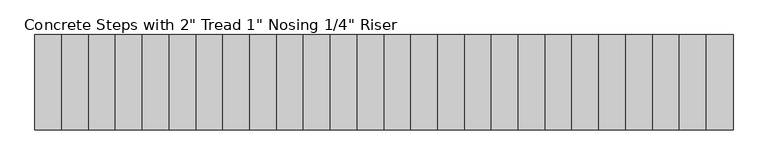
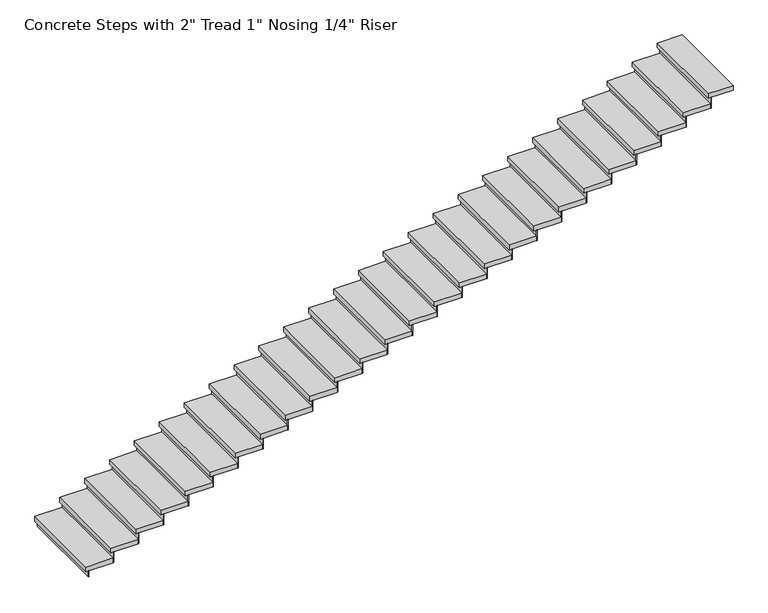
"""IFC4 building model written with IfcOpenShell, lengths in millimetres: stair flight geometry."""

from ifc_helpers import new_model, si_unit, frame, origin, origin_with_axes, place, context, project, spatial, polyline, outline, extrude, source, transform, mapped, element, save


def stair_flight_88b9d9bb(model_context):
    return source(origin(), model_context, "Body", "SweptSolid", [
        extrude(outline(polyline([(-13769.987319, 32762.1216942), (-13776.337319, 32762.1216942), (-13776.337319, 33676.5216942), (-13769.987319, 33676.5216942), (-13769.987319, 32762.1216942)])), origin_with_axes(), (0.0, 0.0, 1.0), 66.4307692),
        extrude(outline(polyline([(-13518.527319, 33676.5216942), (-13518.527319, 32762.1216942), (-13801.737319, 32762.1216942), (-13801.737319, 33676.5216942), (-13518.527319, 33676.5216942)])), frame((0.0, 0.0, 66.4307692), z_axis=(0.0, 0.0, 1.0), x_axis=(1.0, 0.0, 0.0)), (0.0, 0.0, 1.0), 50.8),
        extrude(outline(polyline([(-13512.177319, 32762.1216942), (-13518.527319, 32762.1216942), (-13518.527319, 33676.5216942), (-13512.177319, 33676.5216942), (-13512.177319, 32762.1216942)])), frame((0.0, 0.0, 66.4307692), z_axis=(0.0, 0.0, 1.0), x_axis=(1.0, 0.0, 0.0)), (0.0, 0.0, 1.0), 117.2307692),
        extrude(outline(polyline([(-13260.717319, 33676.5216942), (-13260.717319, 32762.1216942), (-13543.927319, 32762.1216942), (-13543.927319, 33676.5216942), (-13260.717319, 33676.5216942)])), frame((0.0, 0.0, 183.6615385), z_axis=(0.0, 0.0, 1.0), x_axis=(1.0, 0.0, 0.0)), (0.0, 0.0, 1.0), 50.8),
        extrude(outline(polyline([(-13254.367319, 32762.1216942), (-13260.717319, 32762.1216942), (-13260.717319, 33676.5216942), (-13254.367319, 33676.5216942), (-13254.367319, 32762.1216942)])), frame((0.0, 0.0, 183.6615385), z_axis=(0.0, 0.0, 1.0), x_axis=(1.0, 0.0, 0.0)), (0.0, 0.0, 1.0), 117.2307692),
        extrude(outline(polyline([(-13002.907319, 33676.5216942), (-13002.907319, 32762.1216942), (-13286.117319, 32762.1216942), (-13286.117319, 33676.5216942), (-13002.907319, 33676.5216942)])), frame((0.0, 0.0, 300.8923077), z_axis=(0.0, 0.0, 1.0), x_axis=(1.0, 0.0, 0.0)), (0.0, 0.0, 1.0), 50.8),
        extrude(outline(polyline([(-12996.557319, 32762.1216942), (-13002.907319, 32762.1216942), (-13002.907319, 33676.5216942), (-12996.557319, 33676.5216942), (-12996.557319, 32762.1216942)])), frame((0.0, 0.0, 300.8923077), z_axis=(0.0, 0.0, 1.0), x_axis=(1.0, 0.0, 0.0)), (0.0, 0.0, 1.0), 117.2307692),
        extrude(outline(polyline([(-12745.097319, 33676.5216942), (-12745.097319, 32762.1216942), (-13028.307319, 32762.1216942), (-13028.307319, 33676.5216942), (-12745.097319, 33676.5216942)])), frame((0.0, 0.0, 418.1230769), z_axis=(0.0, 0.0, 1.0), x_axis=(1.0, 0.0, 0.0)), (0.0, 0.0, 1.0), 50.8),
        extrude(outline(polyline([(-12738.747319, 32762.1216942), (-12745.097319, 32762.1216942), (-12745.097319, 33676.5216942), (-12738.747319, 33676.5216942), (-12738.747319, 32762.1216942)])), frame((0.0, 0.0, 418.1230769), z_axis=(0.0, 0.0, 1.0), x_axis=(1.0, 0.0, 0.0)), (0.0, 0.0, 1.0), 117.2307692),
        extrude(outline(polyline([(-12487.287319, 33676.5216942), (-12487.287319, 32762.1216942), (-12770.497319, 32762.1216942), (-12770.497319, 33676.5216942), (-12487.287319, 33676.5216942)])), frame((0.0, 0.0, 535.3538462), z_axis=(0.0, 0.0, 1.0), x_axis=(1.0, 0.0, 0.0)), (0.0, 0.0, 1.0), 50.8),
        extrude(outline(polyline([(-12480.937319, 32762.1216942), (-12487.287319, 32762.1216942), (-12487.287319, 33676.5216942), (-12480.937319, 33676.5216942), (-12480.937319, 32762.1216942)])), frame((0.0, 0.0, 535.3538462), z_axis=(0.0, 0.0, 1.0), x_axis=(1.0, 0.0, 0.0)), (0.0, 0.0, 1.0), 117.2307692),
        extrude(outline(polyline([(-12229.477319, 33676.5216942), (-12229.477319, 32762.1216942), (-12512.687319, 32762.1216942), (-12512.687319, 33676.5216942), (-12229.477319, 33676.5216942)])), frame((0.0, 0.0, 652.5846154), z_axis=(0.0, 0.0, 1.0), x_axis=(1.0, 0.0, 0.0)), (0.0, 0.0, 1.0), 50.8),
        extrude(outline(polyline([(-12223.127319, 32762.1216942), (-12229.477319, 32762.1216942), (-12229.477319, 33676.5216942), (-12223.127319, 33676.5216942), (-12223.127319, 32762.1216942)])), frame((0.0, 0.0, 652.5846154), z_axis=(0.0, 0.0, 1.0), x_axis=(1.0, 0.0, 0.0)), (0.0, 0.0, 1.0), 117.2307692),
        extrude(outline(polyline([(-11971.667319, 33676.5216942), (-11971.667319, 32762.1216942), (-12254.877319, 32762.1216942), (-12254.877319, 33676.5216942), (-11971.667319, 33676.5216942)])), frame((0.0, 0.0, 769.8153846), z_axis=(0.0, 0.0, 1.0), x_axis=(1.0, 0.0, 0.0)), (0.0, 0.0, 1.0), 50.8),
        extrude(outline(polyline([(-11965.317319, 32762.1216942), (-11971.667319, 32762.1216942), (-11971.667319, 33676.5216942), (-11965.317319, 33676.5216942), (-11965.317319, 32762.1216942)])), frame((0.0, 0.0, 769.8153846), z_axis=(0.0, 0.0, 1.0), x_axis=(1.0, 0.0, 0.0)), (0.0, 0.0, 1.0), 117.2307692),
        extrude(outline(polyline([(-11713.857319, 33676.5216942), (-11713.857319, 32762.1216942), (-11997.067319, 32762.1216942), (-11997.067319, 33676.5216942), (-11713.857319, 33676.5216942)])), frame((0.0, 0.0, 887.0461538), z_axis=(0.0, 0.0, 1.0), x_axis=(1.0, 0.0, 0.0)), (0.0, 0.0, 1.0), 50.8),
        extrude(outline(polyline([(-11707.507319, 32762.1216942), (-11713.857319, 32762.1216942), (-11713.857319, 33676.5216942), (-11707.507319, 33676.5216942), (-11707.507319, 32762.1216942)])), frame((0.0, 0.0, 887.0461538), z_axis=(0.0, 0.0, 1.0), x_axis=(1.0, 0.0, 0.0)), (0.0, 0.0, 1.0), 117.2307692),
        extrude(outline(polyline([(-11456.047319, 33676.5216942), (-11456.047319, 32762.1216942), (-11739.257319, 32762.1216942), (-11739.257319, 33676.5216942), (-11456.047319, 33676.5216942)])), frame((0.0, 0.0, 1004.2769231), z_axis=(0.0, 0.0, 1.0), x_axis=(1.0, 0.0, 0.0)), (0.0, 0.0, 1.0), 50.8),
        extrude(outline(polyline([(-11449.697319, 32762.1216942), (-11456.047319, 32762.1216942), (-11456.047319, 33676.5216942), (-11449.697319, 33676.5216942), (-11449.697319, 32762.1216942)])), frame((0.0, 0.0, 1004.2769231), z_axis=(0.0, 0.0, 1.0), x_axis=(1.0, 0.0, 0.0)), (0.0, 0.0, 1.0), 117.2307692),
        extrude(outline(polyline([(-11198.237319, 33676.5216942), (-11198.237319, 32762.1216942), (-11481.447319, 32762.1216942), (-11481.447319, 33676.5216942), (-11198.237319, 33676.5216942)])), frame((0.0, 0.0, 1121.5076923), z_axis=(0.0, 0.0, 1.0), x_axis=(1.0, 0.0, 0.0)), (0.0, 0.0, 1.0), 50.8),
        extrude(outline(polyline([(-11191.887319, 32762.1216942), (-11198.237319, 32762.1216942), (-11198.237319, 33676.5216942), (-11191.887319, 33676.5216942), (-11191.887319, 32762.1216942)])), frame((0.0, 0.0, 1121.5076923), z_axis=(0.0, 0.0, 1.0), x_axis=(1.0, 0.0, 0.0)), (0.0, 0.0, 1.0), 117.2307692),
        extrude(outline(polyline([(-10940.427319, 33676.5216942), (-10940.427319, 32762.1216942), (-11223.637319, 32762.1216942), (-11223.637319, 33676.5216942), (-10940.427319, 33676.5216942)])), frame((0.0, 0.0, 1238.7384615), z_axis=(0.0, 0.0, 1.0), x_axis=(1.0, 0.0, 0.0)), (0.0, 0.0, 1.0), 50.8),
        extrude(outline(polyline([(-10934.077319, 32762.1216942), (-10940.427319, 32762.1216942), (-10940.427319, 33676.5216942), (-10934.077319, 33676.5216942), (-10934.077319, 32762.1216942)])), frame((0.0, 0.0, 1238.7384615), z_axis=(0.0, 0.0, 1.0), x_axis=(1.0, 0.0, 0.0)), (0.0, 0.0, 1.0), 117.2307692),
        extrude(outline(polyline([(-10682.617319, 33676.5216942), (-10682.617319, 32762.1216942), (-10965.827319, 32762.1216942), (-10965.827319, 33676.5216942), (-10682.617319, 33676.5216942)])), frame((0.0, 0.0, 1355.9692308), z_axis=(0.0, 0.0, 1.0), x_axis=(1.0, 0.0, 0.0)), (0.0, 0.0, 1.0), 50.8),
        extrude(outline(polyline([(-10676.267319, 32762.1216942), (-10682.617319, 32762.1216942), (-10682.617319, 33676.5216942), (-10676.267319, 33676.5216942), (-10676.267319, 32762.1216942)])), frame((0.0, 0.0, 1355.9692308), z_axis=(0.0, 0.0, 1.0), x_axis=(1.0, 0.0, 0.0)), (0.0, 0.0, 1.0), 117.2307692),
        extrude(outline(polyline([(-10424.807319, 33676.5216942), (-10424.807319, 32762.1216942), (-10708.017319, 32762.1216942), (-10708.017319, 33676.5216942), (-10424.807319, 33676.5216942)])), frame((0.0, 0.0, 1473.2), z_axis=(0.0, 0.0, 1.0), x_axis=(1.0, 0.0, 0.0)), (0.0, 0.0, 1.0), 50.8),
        extrude(outline(polyline([(-10418.457319, 32762.1216942), (-10424.807319, 32762.1216942), (-10424.807319, 33676.5216942), (-10418.457319, 33676.5216942), (-10418.457319, 32762.1216942)])), frame((0.0, 0.0, 1473.2), z_axis=(0.0, 0.0, 1.0), x_axis=(1.0, 0.0, 0.0)), (0.0, 0.0, 1.0), 117.2307692),
        extrude(outline(polyline([(-10166.997319, 33676.5216942), (-10166.997319, 32762.1216942), (-10450.207319, 32762.1216942), (-10450.207319, 33676.5216942), (-10166.997319, 33676.5216942)])), frame((0.0, 0.0, 1590.4307692), z_axis=(0.0, 0.0, 1.0), x_axis=(1.0, 0.0, 0.0)), (0.0, 0.0, 1.0), 50.8),
        extrude(outline(polyline([(-10160.647319, 32762.1216942), (-10166.997319, 32762.1216942), (-10166.997319, 33676.5216942), (-10160.647319, 33676.5216942), (-10160.647319, 32762.1216942)])), frame((0.0, 0.0, 1590.4307692), z_axis=(0.0, 0.0, 1.0), x_axis=(1.0, 0.0, 0.0)), (0.0, 0.0, 1.0), 117.2307692),
        extrude(outline(polyline([(-9909.187319, 33676.5216942), (-9909.187319, 32762.1216942), (-10192.397319, 32762.1216942), (-10192.397319, 33676.5216942), (-9909.187319, 33676.5216942)])), frame((0.0, 0.0, 1707.6615385), z_axis=(0.0, 0.0, 1.0), x_axis=(1.0, 0.0, 0.0)), (0.0, 0.0, 1.0), 50.8),
        extrude(outline(polyline([(-9902.837319, 32762.1216942), (-9909.187319, 32762.1216942), (-9909.187319, 33676.5216942), (-9902.837319, 33676.5216942), (-9902.837319, 32762.1216942)])), frame((0.0, 0.0, 1707.6615385), z_axis=(0.0, 0.0, 1.0), x_axis=(1.0, 0.0, 0.0)), (0.0, 0.0, 1.0), 117.2307692),
        extrude(outline(polyline([(-9651.377319, 33676.5216942), (-9651.377319, 32762.1216942), (-9934.587319, 32762.1216942), (-9934.587319, 33676.5216942), (-9651.377319, 33676.5216942)])), frame((0.0, 0.0, 1824.8923077), z_axis=(0.0, 0.0, 1.0), x_axis=(1.0, 0.0, 0.0)), (0.0, 0.0, 1.0), 50.8),
        extrude(outline(polyline([(-9645.027319, 32762.1216942), (-9651.377319, 32762.1216942), (-9651.377319, 33676.5216942), (-9645.027319, 33676.5216942), (-9645.027319, 32762.1216942)])), frame((0.0, 0.0, 1824.8923077), z_axis=(0.0, 0.0, 1.0), x_axis=(1.0, 0.0, 0.0)), (0.0, 0.0, 1.0), 117.2307692),
        extrude(outline(polyline([(-9393.567319, 33676.5216942), (-9393.567319, 32762.1216942), (-9676.777319, 32762.1216942), (-9676.777319, 33676.5216942), (-9393.567319, 33676.5216942)])), frame((0.0, 0.0, 1942.1230769), z_axis=(0.0, 0.0, 1.0), x_axis=(1.0, 0.0, 0.0)), (0.0, 0.0, 1.0), 50.8),
        extrude(outline(polyline([(-9387.217319, 32762.1216942), (-9393.567319, 32762.1216942), (-9393.567319, 33676.5216942), (-9387.217319, 33676.5216942), (-9387.217319, 32762.1216942)])), frame((0.0, 0.0, 1942.1230769), z_axis=(0.0, 0.0, 1.0), x_axis=(1.0, 0.0, 0.0)), (0.0, 0.0, 1.0), 117.2307692),
        extrude(outline(polyline([(-9135.757319, 33676.5216942), (-9135.757319, 32762.1216942), (-9418.967319, 32762.1216942), (-9418.967319, 33676.5216942), (-9135.757319, 33676.5216942)])), frame((0.0, 0.0, 2059.3538462), z_axis=(0.0, 0.0, 1.0), x_axis=(1.0, 0.0, 0.0)), (0.0, 0.0, 1.0), 50.8),
        extrude(outline(polyline([(-9129.407319, 32762.1216942), (-9135.757319, 32762.1216942), (-9135.757319, 33676.5216942), (-9129.407319, 33676.5216942), (-9129.407319, 32762.1216942)])), frame((0.0, 0.0, 2059.3538462), z_axis=(0.0, 0.0, 1.0), x_axis=(1.0, 0.0, 0.0)), (0.0, 0.0, 1.0), 117.2307692),
        extrude(outline(polyline([(-8877.947319, 33676.5216942), (-8877.947319, 32762.1216942), (-9161.157319, 32762.1216942), (-9161.157319, 33676.5216942), (-8877.947319, 33676.5216942)])), frame((0.0, 0.0, 2176.5846154), z_axis=(0.0, 0.0, 1.0), x_axis=(1.0, 0.0, 0.0)), (0.0, 0.0, 1.0), 50.8),
        extrude(outline(polyline([(-8871.597319, 32762.1216942), (-8877.947319, 32762.1216942), (-8877.947319, 33676.5216942), (-8871.597319, 33676.5216942), (-8871.597319, 32762.1216942)])), frame((0.0, 0.0, 2176.5846154), z_axis=(0.0, 0.0, 1.0), x_axis=(1.0, 0.0, 0.0)), (0.0, 0.0, 1.0), 117.2307692),
        extrude(outline(polyline([(-8620.137319, 33676.5216942), (-8620.137319, 32762.1216942), (-8903.347319, 32762.1216942), (-8903.347319, 33676.5216942), (-8620.137319, 33676.5216942)])), frame((0.0, 0.0, 2293.8153846), z_axis=(0.0, 0.0, 1.0), x_axis=(1.0, 0.0, 0.0)), (0.0, 0.0, 1.0), 50.8),
        extrude(outline(polyline([(-8613.787319, 32762.1216942), (-8620.137319, 32762.1216942), (-8620.137319, 33676.5216942), (-8613.787319, 33676.5216942), (-8613.787319, 32762.1216942)])), frame((0.0, 0.0, 2293.8153846), z_axis=(0.0, 0.0, 1.0), x_axis=(1.0, 0.0, 0.0)), (0.0, 0.0, 1.0), 117.2307692),
        extrude(outline(polyline([(-8362.327319, 33676.5216942), (-8362.327319, 32762.1216942), (-8645.537319, 32762.1216942), (-8645.537319, 33676.5216942), (-8362.327319, 33676.5216942)])), frame((0.0, 0.0, 2411.0461538), z_axis=(0.0, 0.0, 1.0), x_axis=(1.0, 0.0, 0.0)), (0.0, 0.0, 1.0), 50.8),
        extrude(outline(polyline([(-8355.977319, 32762.1216942), (-8362.327319, 32762.1216942), (-8362.327319, 33676.5216942), (-8355.977319, 33676.5216942), (-8355.977319, 32762.1216942)])), frame((0.0, 0.0, 2411.0461538), z_axis=(0.0, 0.0, 1.0), x_axis=(1.0, 0.0, 0.0)), (0.0, 0.0, 1.0), 117.2307692),
        extrude(outline(polyline([(-8104.517319, 33676.5216942), (-8104.517319, 32762.1216942), (-8387.727319, 32762.1216942), (-8387.727319, 33676.5216942), (-8104.517319, 33676.5216942)])), frame((0.0, 0.0, 2528.2769231), z_axis=(0.0, 0.0, 1.0), x_axis=(1.0, 0.0, 0.0)), (0.0, 0.0, 1.0), 50.8),
        extrude(outline(polyline([(-8098.167319, 32762.1216942), (-8104.517319, 32762.1216942), (-8104.517319, 33676.5216942), (-8098.167319, 33676.5216942), (-8098.167319, 32762.1216942)])), frame((0.0, 0.0, 2528.2769231), z_axis=(0.0, 0.0, 1.0), x_axis=(1.0, 0.0, 0.0)), (0.0, 0.0, 1.0), 117.2307692),
        extrude(outline(polyline([(-7846.707319, 33676.5216942), (-7846.707319, 32762.1216942), (-8129.917319, 32762.1216942), (-8129.917319, 33676.5216942), (-7846.707319, 33676.5216942)])), frame((0.0, 0.0, 2645.5076923), z_axis=(0.0, 0.0, 1.0), x_axis=(1.0, 0.0, 0.0)), (0.0, 0.0, 1.0), 50.8),
        extrude(outline(polyline([(-7840.357319, 32762.1216942), (-7846.707319, 32762.1216942), (-7846.707319, 33676.5216942), (-7840.357319, 33676.5216942), (-7840.357319, 32762.1216942)])), frame((0.0, 0.0, 2645.5076923), z_axis=(0.0, 0.0, 1.0), x_axis=(1.0, 0.0, 0.0)), (0.0, 0.0, 1.0), 117.2307692),
        extrude(outline(polyline([(-7588.897319, 33676.5216942), (-7588.897319, 32762.1216942), (-7872.107319, 32762.1216942), (-7872.107319, 33676.5216942), (-7588.897319, 33676.5216942)])), frame((0.0, 0.0, 2762.7384615), z_axis=(0.0, 0.0, 1.0), x_axis=(1.0, 0.0, 0.0)), (0.0, 0.0, 1.0), 50.8),
        extrude(outline(polyline([(-7582.547319, 32762.1216942), (-7588.897319, 32762.1216942), (-7588.897319, 33676.5216942), (-7582.547319, 33676.5216942), (-7582.547319, 32762.1216942)])), frame((0.0, 0.0, 2762.7384615), z_axis=(0.0, 0.0, 1.0), x_axis=(1.0, 0.0, 0.0)), (0.0, 0.0, 1.0), 117.2307692),
        extrude(outline(polyline([(-7331.087319, 33676.5216942), (-7331.087319, 32762.1216942), (-7614.297319, 32762.1216942), (-7614.297319, 33676.5216942), (-7331.087319, 33676.5216942)])), frame((0.0, 0.0, 2879.9692308), z_axis=(0.0, 0.0, 1.0), x_axis=(1.0, 0.0, 0.0)), (0.0, 0.0, 1.0), 50.8),
        extrude(outline(polyline([(-7324.737319, 32762.1216942), (-7331.087319, 32762.1216942), (-7331.087319, 33676.5216942), (-7324.737319, 33676.5216942), (-7324.737319, 32762.1216942)])), frame((0.0, 0.0, 2879.9692308), z_axis=(0.0, 0.0, 1.0), x_axis=(1.0, 0.0, 0.0)), (0.0, 0.0, 1.0), 117.2307692),
        extrude(outline(polyline([(-7098.677319, 33676.5216942), (-7098.677319, 32762.1216942), (-7356.487319, 32762.1216942), (-7356.487319, 33676.5216942), (-7098.677319, 33676.5216942)])), frame((0.0, 0.0, 2997.2), z_axis=(0.0, 0.0, 1.0), x_axis=(1.0, 0.0, 0.0)), (0.0, 0.0, 1.0), 50.8),
    ])


if __name__ == "__main__":
    model = new_model("IFC4")
    model_context = context("Model", 3, world=origin())
    ifc_project = project(units=[si_unit("LENGTHUNIT", "METRE", prefix="MILLI")], contexts=[model_context])
    site = spatial("IfcSite", under=ifc_project)
    building = spatial("IfcBuilding", under=site)
    placement = place(None, origin())
    stair_flight_shape = stair_flight_88b9d9bb(model_context)
    element("IfcStairFlight", 1, ObjectType="Concrete Steps with 2\" Tread 1\" Nosing 1/4\" Riser", at=placement, inside=building, context=model_context, shape_type="MappedRepresentation", body=[
        mapped(stair_flight_shape, transform((0.0, 0.0, 0.0), x_axis=(1.0, 0.0, 0.0), y_axis=(0.0, 1.0, 0.0), z_axis=(0.0, 0.0, 1.0))),
    ])
    save(model, "model.ifc")
